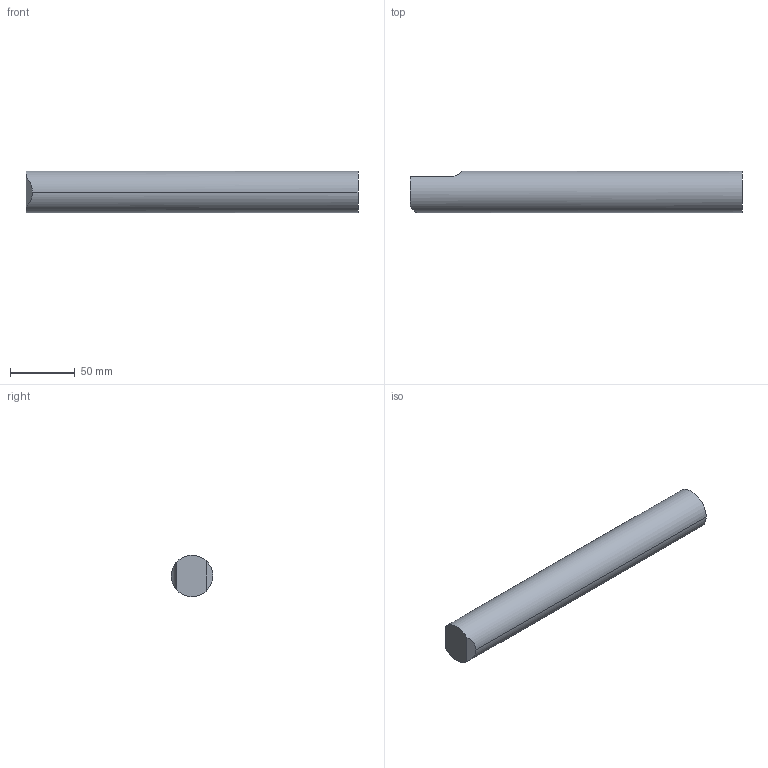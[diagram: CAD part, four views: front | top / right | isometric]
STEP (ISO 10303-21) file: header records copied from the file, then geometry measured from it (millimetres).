
FILE_DESCRIPTION( (''), '2;1');
FILE_NAME ('SY-2080-15_TH-32251-C.stp','2022-04-09T19:25:09',(''),(''),'spGate 18.9.3 (****-****-****-****)','','');
FILE_SCHEMA (('AUTOMOTIVE_DESIGN'));
Length unit declared in the file: millimetre
Products named in the file (2): Assembly; SY-2080-15_TH-32251-C-prt0
Assembly tree (1 placements, depth 2):
  Assembly
    SY-2080-15_TH-32251-C-prt0
Bounding box: 256 x 32 x 32 mm (x, y, z)
Volume: 183168.8 mm3; surface area: 34860.7 mm2
Topology: 1 solids, 1 shells, 22 faces, 49 edges, 28 vertices
Faces by surface type: bspline 10, cylinder 7, plane 5
Entity records: 1088 total; most frequent: CARTESIAN_POINT 257, ORIENTED_EDGE 90, DIRECTION 77, COLOUR_RGB 68, PRESENTATION_STYLE_ASSIGNMENT 68, STYLED_ITEM 68, EDGE_CURVE 45, DRAUGHTING_PRE_DEFINED_CURVE_FONT 45
